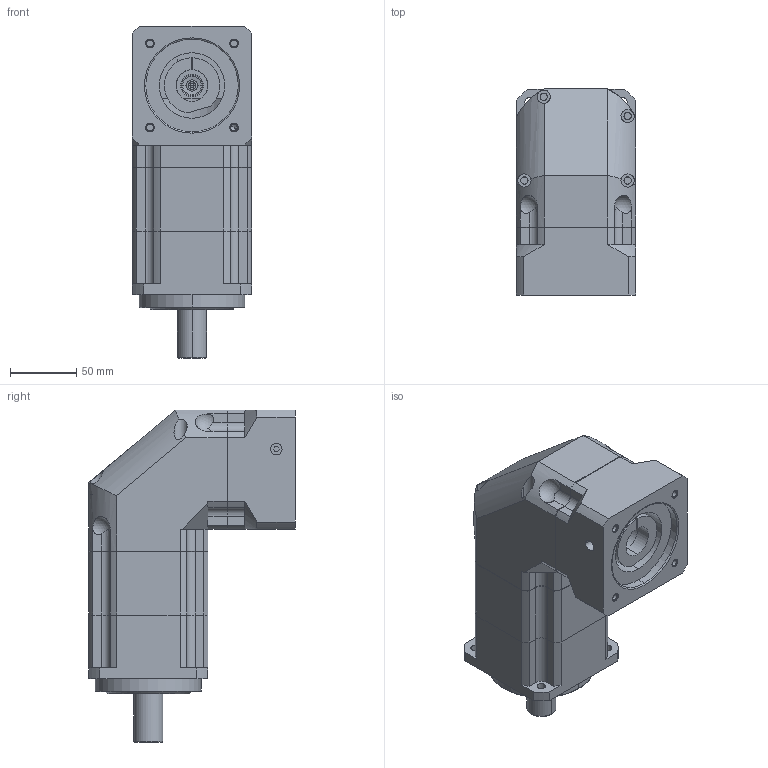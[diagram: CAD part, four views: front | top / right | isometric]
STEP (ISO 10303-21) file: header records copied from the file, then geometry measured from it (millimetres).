
FILE_DESCRIPTION((''),'2;1');
FILE_NAME('ABR090A2-P0401300305_ASM','2022-02-17T',('D00080'),(''),'PRO/ENGINEER BY PARAMETRIC TECHNOLOGY CORPORATION, 2015240','PRO/ENGINEER BY PARAMETRIC TECHNOLOGY CORPORATION, 2015240','');
FILE_SCHEMA(('CONFIG_CONTROL_DESIGN'));
Length unit declared in the file: millimetre
Products named in the file (5): AB090A2_AF4; AN034A-1_AF4; PD030001; P0401300305; ABR090A2-P0401300305_ASM
Assembly tree (4 placements, depth 2):
  ABR090A2-P0401300305_ASM
    AB090A2_AF4
    AN034A-1_AF4
    PD030001
    P0401300305
Bounding box: 90 x 156 x 251 mm (x, y, z)
Volume: 1451954.7 mm3; surface area: 194931.3 mm2
Topology: 5 solids, 16 shells, 460 faces, 1124 edges, 696 vertices
Faces by surface type: cylinder 178, plane 170, cone 88, torus 20, sphere 4
Entity records: 14048 total; most frequent: CARTESIAN_POINT 2872, DIRECTION 2485, ORIENTED_EDGE 2172, EDGE_CURVE 1110, AXIS2_PLACEMENT_3D 979, VERTEX_POINT 696, VECTOR 527, LINE 527
